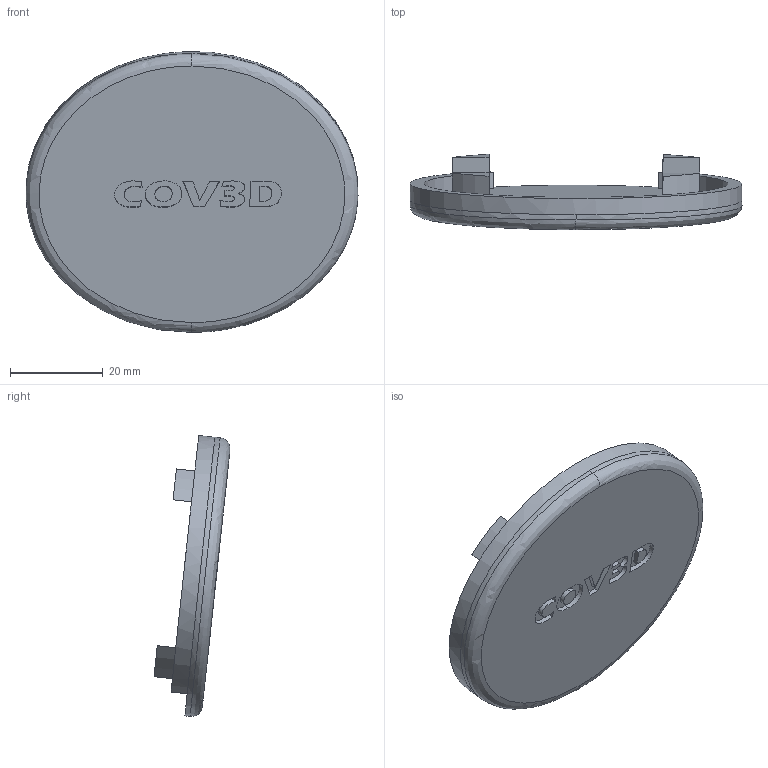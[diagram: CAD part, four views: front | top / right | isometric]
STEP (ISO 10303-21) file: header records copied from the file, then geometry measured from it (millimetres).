
FILE_DESCRIPTION(/* description */ (''),/* implementation_level */ '2;1');
FILE_NAME(/* name */ 'M-MEDI~1',/* time_stamp */ '2020-04-10T21:35:30+03:00',/* author */ (''),/* organization */ (''),/* preprocessor_version */ 'ST-DEVELOPER v16.5',/* originating_system */ '',/* authorisation */ '');
FILE_SCHEMA (('AUTOMOTIVE_DESIGN'));
Length unit declared in the file: millimetre
Products named in the file (1): Document
Bounding box: 71.5 x 16.36 x 60.51 mm (x, y, z)
Volume: 13958.1 mm3; surface area: 9336.5 mm2
Topology: 1 solids, 1 shells, 67 faces, 158 edges, 104 vertices
Faces by surface type: bspline 44, plane 23
Entity records: 2836 total; most frequent: CARTESIAN_POINT 1768, ORIENTED_EDGE 316, EDGE_CURVE 158, B_SPLINE_CURVE_WITH_KNOTS 131, VERTEX_POINT 104, EDGE_LOOP 78, ADVANCED_FACE 67, FACE_OUTER_BOUND 67
